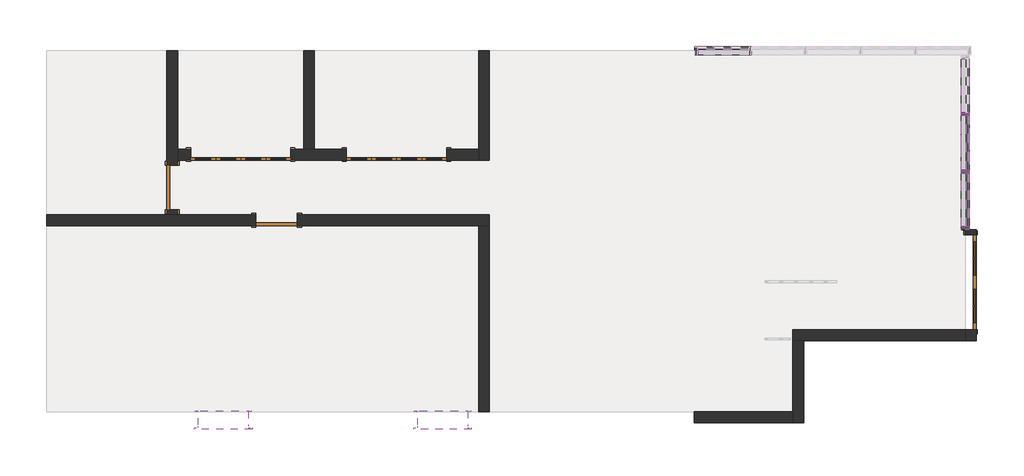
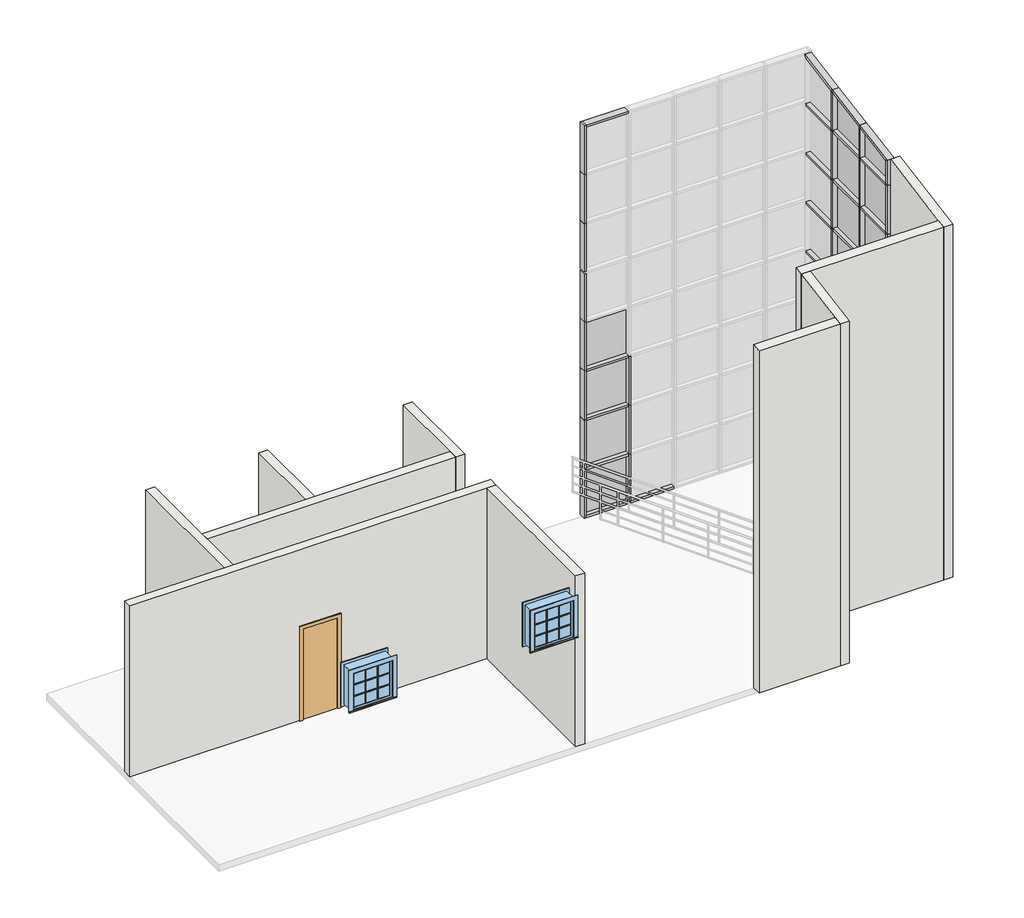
# One storey, part 1 of 2: 67 members, 20 plates, 10 walls, 5 doors, 2 windows.
"""IFC4 building model written with IfcOpenShell, lengths in millimetres."""

from ifc_helpers import new_model, si_unit, frame, origin, place, context, project, spatial, polyline, outline, extrude, faceted_brep, transform, mapped, element, save
from components import door_0762_x_2134mm_85379237, door_0813_x_2134mm_c8a1819b, m_bifold_4_panel_1830_x_2134mm_4b6cec86, m_double_glass_2_1730_x_2134mm_888b7f1c, member_50_x_150mm_83b75eaf, member_50_x_150mm_038a97c0, member_50_x_150mm_99484d71, member_50_x_150mm_4bc6baff, member_50_x_150mm_8b7169f3, member_50_x_150mm_d835aa78, member_50_x_150mm_4919059b, member_50_x_150mm_3cbe9fad, member_50_x_150mm_05ab2822, member_50_x_150mm_df28c177, member_50_x_150mm_b83a1f72, member_50_x_150mm_a69757b9, member_50_x_150mm_bdf0faf1, member_50_x_150mm_050e1f32, member_50_x_150mm_622a95de, member_50_x_150mm_cac3cb24, member_50_x_150mm_aa95aaac, member_50_x_150mm_26602ad8, plate_c1ab5d1c, plate_baaea02c, plate_5f0fc48b, plate_e926f8a0, plate_68810ae1, plate_81e93dbd, plate_49ade304, plate_39faa012, m_casement_3x3_with_trim_0915_x_0915mm_2_71039012

model = new_model("IFC4")

# Units and contexts
model_context = context("Model", 3, world=origin())
ifc_project = project(units=[si_unit("LENGTHUNIT", "METRE", prefix="MILLI")], contexts=[model_context])

# Site, building, storey
site = spatial("IfcSite", under=ifc_project)
building = spatial("IfcBuilding", under=site)
storey = spatial("IfcBuildingStorey", under=building, Name="01 下方樓層", Elevation=-4000.0)

# Doors
placement = place(None, origin())
door_0762_x_2134mm_shape = door_0762_x_2134mm_85379237(model_context)
element("IfcDoor", 1, ObjectType="M_單個嵌平 : 0762 x 2134mm", at=placement, inside=storey, context=model_context, shape_type="MappedRepresentation", body=[
    mapped(door_0762_x_2134mm_shape, transform((-2040.5554883, -2249.1637817, -4000.0), x_axis=(-1.0, 0.0, 0.0), y_axis=(0.0, -1.0, 0.0), z_axis=(0.0, 0.0, 1.0))),
])
door_0813_x_2134mm_shape = door_0813_x_2134mm_c8a1819b(model_context)
element("IfcDoor", 2, ObjectType="M_單個嵌平 : 0813 x 2134mm", at=placement, inside=storey, context=model_context, shape_type="MappedRepresentation", body=[
    mapped(door_0813_x_2134mm_shape, transform((-3947.0554883, -1649.1637817, -4000.0), x_axis=(0.0, -1.0, 0.0), y_axis=(1.0, 0.0, 0.0), z_axis=(0.0, 0.0, 1.0))),
])
m_bifold_4_panel_1830_x_2134mm_shape = m_bifold_4_panel_1830_x_2134mm_4b6cec86(model_context)
element("IfcDoor", 3, ObjectType="M_Bifold-4 Panel : 1830 x 2134mm", at=placement, inside=storey, context=model_context, shape_type="MappedRepresentation", body=[
    mapped(m_bifold_4_panel_1830_x_2134mm_shape, transform((-2697.0554883, -1049.1637817, -4000.0), x_axis=(1.0, 0.0, 0.0), y_axis=(0.0, 1.0, 0.0), z_axis=(0.0, 0.0, 1.0))),
])
element("IfcDoor", 4, ObjectType="M_Bifold-4 Panel : 1830 x 2134mm", at=placement, inside=storey, context=model_context, shape_type="MappedRepresentation", body=[
    mapped(m_bifold_4_panel_1830_x_2134mm_shape, transform((152.9445117, -1049.1637817, -4000.0), x_axis=(1.0, 0.0, 0.0), y_axis=(0.0, 1.0, 0.0), z_axis=(0.0, 0.0, 1.0))),
])
m_double_glass_2_1730_x_2134mm_shape = m_double_glass_2_1730_x_2134mm_888b7f1c(model_context)
element("IfcDoor", 5, ObjectType="M_Double-Glass 2 : 1730 x 2134mm", at=placement, inside=storey, context=model_context, shape_type="MappedRepresentation", body=[
    mapped(m_double_glass_2_1730_x_2134mm_shape, transform((10652.9445117, -3384.1637817, -4000.0), x_axis=(0.0, -1.0, 0.0), y_axis=(1.0, 0.0, 0.0), z_axis=(0.0, 0.0, 1.0))),
])

# Members
member_50_x_150mm_shape = member_50_x_150mm_83b75eaf(model_context)
element("IfcMember", 6, ObjectType="矩形豎框 : 50 x 150mm", at=placement, inside=storey, context=model_context, shape_type="MappedRepresentation", body=[
    mapped(member_50_x_150mm_shape, transform((10552.9445117, -2419.1637817, 4622.4342419), x_axis=(0.0, -0.17364817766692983, 0.9848077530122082), y_axis=(-1.0, 0.0, 0.0), z_axis=(0.0, -0.9848077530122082, -0.17364817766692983))),
])
member_50_x_150mm_2_shape = member_50_x_150mm_038a97c0(model_context)
element("IfcMember", 7, ObjectType="矩形豎框 : 50 x 150mm", at=placement, inside=storey, context=model_context, shape_type="MappedRepresentation", body=[
    mapped(member_50_x_150mm_2_shape, transform((10552.9445117, -1387.4971151, -4000.0), x_axis=(0.0, 0.0, -1.0), y_axis=(-1.0, 0.0, 0.0), z_axis=(0.0, 1.0, 0.0))),
])
member_50_x_150mm_3_shape = member_50_x_150mm_99484d71(model_context)
element("IfcMember", 8, ObjectType="矩形豎框 : 50 x 150mm", at=placement, inside=storey, context=model_context, shape_type="MappedRepresentation", body=[
    mapped(member_50_x_150mm_3_shape, transform((10552.9445117, -305.8304484, 4995.0719278), x_axis=(0.0, -0.17364817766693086, 0.984807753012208), y_axis=(-1.0, 0.0, 0.0), z_axis=(0.0, -0.984807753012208, -0.17364817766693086))),
])
member_50_x_150mm_4_shape = member_50_x_150mm_4bc6baff(model_context)
element("IfcMember", 9, ObjectType="矩形豎框 : 50 x 150mm", at=placement, inside=storey, context=model_context, shape_type="MappedRepresentation", body=[
    mapped(member_50_x_150mm_4_shape, transform((10552.9445117, -1362.4971151, 4808.7530848), x_axis=(0.0, -0.17364817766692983, 0.9848077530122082), y_axis=(-1.0, 0.0, 0.0), z_axis=(0.0, -0.9848077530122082, -0.17364817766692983))),
])
member_50_x_150mm_5_shape = member_50_x_150mm_8b7169f3(model_context)
element("IfcMember", 10, ObjectType="矩形豎框 : 50 x 150mm", at=placement, inside=storey, context=model_context, shape_type="MappedRepresentation", body=[
    mapped(member_50_x_150mm_5_shape, transform((10552.9445117, -330.8304484, -4000.0), x_axis=(0.0, 0.0, -1.0), y_axis=(-1.0, 0.0, 0.0), z_axis=(0.0, 1.0, 0.0))),
])
member_50_x_150mm_6_shape = member_50_x_150mm_d835aa78(model_context)
element("IfcMember", 11, ObjectType="矩形豎框 : 50 x 150mm", at=placement, inside=storey, context=model_context, shape_type="MappedRepresentation", body=[
    mapped(member_50_x_150mm_6_shape, transform((10552.9445117, -280.8304484, -2852.3261537), x_axis=(0.0, 0.0, 1.0), y_axis=(-1.0, 0.0, 0.0), z_axis=(0.0, -1.0, 0.0))),
])
element("IfcMember", 12, ObjectType="矩形豎框 : 50 x 150mm", at=placement, inside=storey, context=model_context, shape_type="MappedRepresentation", body=[
    mapped(member_50_x_150mm_6_shape, transform((10552.9445117, -2369.1637817, -2852.3261537), x_axis=(0.0, 0.0, 1.0), y_axis=(-1.0, 0.0, 0.0), z_axis=(0.0, -1.0, 0.0))),
])
element("IfcMember", 13, ObjectType="矩形豎框 : 50 x 150mm", at=placement, inside=storey, context=model_context, shape_type="MappedRepresentation", body=[
    mapped(member_50_x_150mm_6_shape, transform((10552.9445117, -280.8304484, -1704.6523073), x_axis=(0.0, 0.0, 1.0), y_axis=(-1.0, 0.0, 0.0), z_axis=(0.0, -1.0, 0.0))),
])
element("IfcMember", 14, ObjectType="矩形豎框 : 50 x 150mm", at=placement, inside=storey, context=model_context, shape_type="MappedRepresentation", body=[
    mapped(member_50_x_150mm_6_shape, transform((10552.9445117, -2369.1637817, -1704.6523073), x_axis=(0.0, 0.0, 1.0), y_axis=(-1.0, 0.0, 0.0), z_axis=(0.0, -1.0, 0.0))),
])
element("IfcMember", 15, ObjectType="矩形豎框 : 50 x 150mm", at=placement, inside=storey, context=model_context, shape_type="MappedRepresentation", body=[
    mapped(member_50_x_150mm_6_shape, transform((10552.9445117, -280.8304484, -556.978461), x_axis=(0.0, 0.0, 1.0), y_axis=(-1.0, 0.0, 0.0), z_axis=(0.0, -1.0, 0.0))),
])
element("IfcMember", 16, ObjectType="矩形豎框 : 50 x 150mm", at=placement, inside=storey, context=model_context, shape_type="MappedRepresentation", body=[
    mapped(member_50_x_150mm_6_shape, transform((10552.9445117, -2369.1637817, -556.978461), x_axis=(0.0, 0.0, 1.0), y_axis=(-1.0, 0.0, 0.0), z_axis=(0.0, -1.0, 0.0))),
])
element("IfcMember", 17, ObjectType="矩形豎框 : 50 x 150mm", at=placement, inside=storey, context=model_context, shape_type="MappedRepresentation", body=[
    mapped(member_50_x_150mm_6_shape, transform((10552.9445117, -280.8304484, 590.6953854), x_axis=(0.0, 0.0, 1.0), y_axis=(-1.0, 0.0, 0.0), z_axis=(0.0, -1.0, 0.0))),
])
element("IfcMember", 18, ObjectType="矩形豎框 : 50 x 150mm", at=placement, inside=storey, context=model_context, shape_type="MappedRepresentation", body=[
    mapped(member_50_x_150mm_6_shape, transform((10552.9445117, -2369.1637817, 590.6953854), x_axis=(0.0, 0.0, 1.0), y_axis=(-1.0, 0.0, 0.0), z_axis=(0.0, -1.0, 0.0))),
])
element("IfcMember", 19, ObjectType="矩形豎框 : 50 x 150mm", at=placement, inside=storey, context=model_context, shape_type="MappedRepresentation", body=[
    mapped(member_50_x_150mm_6_shape, transform((10552.9445117, -280.8304484, 1738.3692317), x_axis=(0.0, 0.0, 1.0), y_axis=(-1.0, 0.0, 0.0), z_axis=(0.0, -1.0, 0.0))),
])
element("IfcMember", 20, ObjectType="矩形豎框 : 50 x 150mm", at=placement, inside=storey, context=model_context, shape_type="MappedRepresentation", body=[
    mapped(member_50_x_150mm_6_shape, transform((10552.9445117, -2369.1637817, 1738.3692317), x_axis=(0.0, 0.0, 1.0), y_axis=(-1.0, 0.0, 0.0), z_axis=(0.0, -1.0, 0.0))),
])
element("IfcMember", 21, ObjectType="矩形豎框 : 50 x 150mm", at=placement, inside=storey, context=model_context, shape_type="MappedRepresentation", body=[
    mapped(member_50_x_150mm_6_shape, transform((10552.9445117, -280.8304484, 2886.0430781), x_axis=(0.0, 0.0, 1.0), y_axis=(-1.0, 0.0, 0.0), z_axis=(0.0, -1.0, 0.0))),
])
element("IfcMember", 22, ObjectType="矩形豎框 : 50 x 150mm", at=placement, inside=storey, context=model_context, shape_type="MappedRepresentation", body=[
    mapped(member_50_x_150mm_6_shape, transform((10552.9445117, -2369.1637817, 2886.0430781), x_axis=(0.0, 0.0, 1.0), y_axis=(-1.0, 0.0, 0.0), z_axis=(0.0, -1.0, 0.0))),
])
element("IfcMember", 23, ObjectType="矩形豎框 : 50 x 150mm", at=placement, inside=storey, context=model_context, shape_type="MappedRepresentation", body=[
    mapped(member_50_x_150mm_6_shape, transform((10552.9445117, -280.8304484, 4033.7169244), x_axis=(0.0, 0.0, 1.0), y_axis=(-1.0, 0.0, 0.0), z_axis=(0.0, -1.0, 0.0))),
])
element("IfcMember", 24, ObjectType="矩形豎框 : 50 x 150mm", at=placement, inside=storey, context=model_context, shape_type="MappedRepresentation", body=[
    mapped(member_50_x_150mm_6_shape, transform((10552.9445117, -2369.1637817, 4033.7169244), x_axis=(0.0, 0.0, 1.0), y_axis=(-1.0, 0.0, 0.0), z_axis=(0.0, -1.0, 0.0))),
])
member_50_x_150mm_7_shape = member_50_x_150mm_4919059b(model_context)
element("IfcMember", 25, ObjectType="矩形豎框 : 50 x 150mm", at=placement, inside=storey, context=model_context, shape_type="MappedRepresentation", body=[
    mapped(member_50_x_150mm_7_shape, transform((10552.9445117, -1337.4971151, -2852.3261537), x_axis=(0.0, 0.0, 1.0), y_axis=(-1.0, 0.0, 0.0), z_axis=(0.0, -1.0, 0.0))),
])
element("IfcMember", 26, ObjectType="矩形豎框 : 50 x 150mm", at=placement, inside=storey, context=model_context, shape_type="MappedRepresentation", body=[
    mapped(member_50_x_150mm_7_shape, transform((10552.9445117, -1337.4971151, -1704.6523073), x_axis=(0.0, 0.0, 1.0), y_axis=(-1.0, 0.0, 0.0), z_axis=(0.0, -1.0, 0.0))),
])
element("IfcMember", 27, ObjectType="矩形豎框 : 50 x 150mm", at=placement, inside=storey, context=model_context, shape_type="MappedRepresentation", body=[
    mapped(member_50_x_150mm_7_shape, transform((10552.9445117, -1337.4971151, -556.978461), x_axis=(0.0, 0.0, 1.0), y_axis=(-1.0, 0.0, 0.0), z_axis=(0.0, -1.0, 0.0))),
])
element("IfcMember", 28, ObjectType="矩形豎框 : 50 x 150mm", at=placement, inside=storey, context=model_context, shape_type="MappedRepresentation", body=[
    mapped(member_50_x_150mm_7_shape, transform((10552.9445117, -1337.4971151, 590.6953854), x_axis=(0.0, 0.0, 1.0), y_axis=(-1.0, 0.0, 0.0), z_axis=(0.0, -1.0, 0.0))),
])
element("IfcMember", 29, ObjectType="矩形豎框 : 50 x 150mm", at=placement, inside=storey, context=model_context, shape_type="MappedRepresentation", body=[
    mapped(member_50_x_150mm_7_shape, transform((10552.9445117, -1337.4971151, 1738.3692317), x_axis=(0.0, 0.0, 1.0), y_axis=(-1.0, 0.0, 0.0), z_axis=(0.0, -1.0, 0.0))),
])
element("IfcMember", 30, ObjectType="矩形豎框 : 50 x 150mm", at=placement, inside=storey, context=model_context, shape_type="MappedRepresentation", body=[
    mapped(member_50_x_150mm_7_shape, transform((10552.9445117, -1337.4971151, 2886.0430781), x_axis=(0.0, 0.0, 1.0), y_axis=(-1.0, 0.0, 0.0), z_axis=(0.0, -1.0, 0.0))),
])
element("IfcMember", 31, ObjectType="矩形豎框 : 50 x 150mm", at=placement, inside=storey, context=model_context, shape_type="MappedRepresentation", body=[
    mapped(member_50_x_150mm_7_shape, transform((10552.9445117, -1337.4971151, 4033.7169244), x_axis=(0.0, 0.0, 1.0), y_axis=(-1.0, 0.0, 0.0), z_axis=(0.0, -1.0, 0.0))),
])
member_50_x_150mm_8_shape = member_50_x_150mm_3cbe9fad(model_context)
element("IfcMember", 32, ObjectType="矩形豎框 : 50 x 150mm", at=placement, inside=storey, context=model_context, shape_type="MappedRepresentation", body=[
    mapped(member_50_x_150mm_8_shape, transform((10552.9445117, -305.8304484, -4000.0), x_axis=(0.0, -1.0, 0.0), y_axis=(-1.0, 0.0, 0.0), z_axis=(0.0, 0.0, -1.0))),
])
element("IfcMember", 33, ObjectType="矩形豎框 : 50 x 150mm", at=placement, inside=storey, context=model_context, shape_type="MappedRepresentation", body=[
    mapped(member_50_x_150mm_8_shape, transform((10552.9445117, -1362.4971151, -4000.0), x_axis=(0.0, -1.0, 0.0), y_axis=(-1.0, 0.0, 0.0), z_axis=(0.0, 0.0, -1.0))),
])
element("IfcMember", 34, ObjectType="矩形豎框 : 50 x 150mm", at=placement, inside=storey, context=model_context, shape_type="MappedRepresentation", body=[
    mapped(member_50_x_150mm_8_shape, transform((10552.9445117, -305.8304484, -2852.3261537), x_axis=(0.0, -1.0, 0.0), y_axis=(-1.0, 0.0, 0.0), z_axis=(0.0, 0.0, -1.0))),
])
element("IfcMember", 35, ObjectType="矩形豎框 : 50 x 150mm", at=placement, inside=storey, context=model_context, shape_type="MappedRepresentation", body=[
    mapped(member_50_x_150mm_8_shape, transform((10552.9445117, -1362.4971151, -2852.3261537), x_axis=(0.0, -1.0, 0.0), y_axis=(-1.0, 0.0, 0.0), z_axis=(0.0, 0.0, -1.0))),
])
element("IfcMember", 36, ObjectType="矩形豎框 : 50 x 150mm", at=placement, inside=storey, context=model_context, shape_type="MappedRepresentation", body=[
    mapped(member_50_x_150mm_8_shape, transform((10552.9445117, -305.8304484, -1704.6523073), x_axis=(0.0, -1.0, 0.0), y_axis=(-1.0, 0.0, 0.0), z_axis=(0.0, 0.0, -1.0))),
])
element("IfcMember", 37, ObjectType="矩形豎框 : 50 x 150mm", at=placement, inside=storey, context=model_context, shape_type="MappedRepresentation", body=[
    mapped(member_50_x_150mm_8_shape, transform((10552.9445117, -1362.4971151, -1704.6523073), x_axis=(0.0, -1.0, 0.0), y_axis=(-1.0, 0.0, 0.0), z_axis=(0.0, 0.0, -1.0))),
])
element("IfcMember", 38, ObjectType="矩形豎框 : 50 x 150mm", at=placement, inside=storey, context=model_context, shape_type="MappedRepresentation", body=[
    mapped(member_50_x_150mm_8_shape, transform((10552.9445117, -305.8304484, -556.978461), x_axis=(0.0, -1.0, 0.0), y_axis=(-1.0, 0.0, 0.0), z_axis=(0.0, 0.0, -1.0))),
])
element("IfcMember", 39, ObjectType="矩形豎框 : 50 x 150mm", at=placement, inside=storey, context=model_context, shape_type="MappedRepresentation", body=[
    mapped(member_50_x_150mm_8_shape, transform((10552.9445117, -1362.4971151, -556.978461), x_axis=(0.0, -1.0, 0.0), y_axis=(-1.0, 0.0, 0.0), z_axis=(0.0, 0.0, -1.0))),
])
element("IfcMember", 40, ObjectType="矩形豎框 : 50 x 150mm", at=placement, inside=storey, context=model_context, shape_type="MappedRepresentation", body=[
    mapped(member_50_x_150mm_8_shape, transform((10552.9445117, -305.8304484, 590.6953854), x_axis=(0.0, -1.0, 0.0), y_axis=(-1.0, 0.0, 0.0), z_axis=(0.0, 0.0, -1.0))),
])
element("IfcMember", 41, ObjectType="矩形豎框 : 50 x 150mm", at=placement, inside=storey, context=model_context, shape_type="MappedRepresentation", body=[
    mapped(member_50_x_150mm_8_shape, transform((10552.9445117, -305.8304484, 1738.3692317), x_axis=(0.0, -1.0, 0.0), y_axis=(-1.0, 0.0, 0.0), z_axis=(0.0, 0.0, -1.0))),
])
element("IfcMember", 42, ObjectType="矩形豎框 : 50 x 150mm", at=placement, inside=storey, context=model_context, shape_type="MappedRepresentation", body=[
    mapped(member_50_x_150mm_8_shape, transform((10552.9445117, -305.8304484, 2886.0430781), x_axis=(0.0, -1.0, 0.0), y_axis=(-1.0, 0.0, 0.0), z_axis=(0.0, 0.0, -1.0))),
])
element("IfcMember", 43, ObjectType="矩形豎框 : 50 x 150mm", at=placement, inside=storey, context=model_context, shape_type="MappedRepresentation", body=[
    mapped(member_50_x_150mm_8_shape, transform((10552.9445117, -1362.4971151, 590.6953854), x_axis=(0.0, -1.0, 0.0), y_axis=(-1.0, 0.0, 0.0), z_axis=(0.0, 0.0, -1.0))),
])
element("IfcMember", 44, ObjectType="矩形豎框 : 50 x 150mm", at=placement, inside=storey, context=model_context, shape_type="MappedRepresentation", body=[
    mapped(member_50_x_150mm_8_shape, transform((10552.9445117, -1362.4971151, 1738.3692317), x_axis=(0.0, -1.0, 0.0), y_axis=(-1.0, 0.0, 0.0), z_axis=(0.0, 0.0, -1.0))),
])
element("IfcMember", 45, ObjectType="矩形豎框 : 50 x 150mm", at=placement, inside=storey, context=model_context, shape_type="MappedRepresentation", body=[
    mapped(member_50_x_150mm_8_shape, transform((10552.9445117, -1362.4971151, 2886.0430781), x_axis=(0.0, -1.0, 0.0), y_axis=(-1.0, 0.0, 0.0), z_axis=(0.0, 0.0, -1.0))),
])
member_50_x_150mm_9_shape = member_50_x_150mm_05ab2822(model_context)
element("IfcMember", 46, ObjectType="矩形豎框 : 50 x 150mm", at=placement, inside=storey, context=model_context, shape_type="MappedRepresentation", body=[
    mapped(member_50_x_150mm_9_shape, transform((10552.9445117, -305.8304484, 4033.7169244), x_axis=(0.0, -1.0, 0.0), y_axis=(-1.0, 0.0, 0.0), z_axis=(0.0, 0.0, -1.0))),
])
member_50_x_150mm_10_shape = member_50_x_150mm_df28c177(model_context)
element("IfcMember", 47, ObjectType="矩形豎框 : 50 x 150mm", at=placement, inside=storey, context=model_context, shape_type="MappedRepresentation", body=[
    mapped(member_50_x_150mm_10_shape, transform((10552.9445117, -1362.4971151, 4033.7169244), x_axis=(0.0, -1.0, 0.0), y_axis=(-1.0, 0.0, 0.0), z_axis=(0.0, 0.0, -1.0))),
])
member_50_x_150mm_11_shape = member_50_x_150mm_b83a1f72(model_context)
element("IfcMember", 48, ObjectType="矩形豎框 : 50 x 150mm", at=placement, inside=storey, context=model_context, shape_type="MappedRepresentation", body=[
    mapped(member_50_x_150mm_11_shape, transform((10552.9445117, -2419.1637817, -4000.0), x_axis=(0.0, -1.0, 0.0), y_axis=(-1.0, 0.0, 0.0), z_axis=(0.0, 0.0, -1.0))),
])
element("IfcMember", 49, ObjectType="矩形豎框 : 50 x 150mm", at=placement, inside=storey, context=model_context, shape_type="MappedRepresentation", body=[
    mapped(member_50_x_150mm_11_shape, transform((10552.9445117, -2419.1637817, -2852.3261537), x_axis=(0.0, -1.0, 0.0), y_axis=(-1.0, 0.0, 0.0), z_axis=(0.0, 0.0, -1.0))),
])
element("IfcMember", 50, ObjectType="矩形豎框 : 50 x 150mm", at=placement, inside=storey, context=model_context, shape_type="MappedRepresentation", body=[
    mapped(member_50_x_150mm_11_shape, transform((10552.9445117, -2419.1637817, -1704.6523073), x_axis=(0.0, -1.0, 0.0), y_axis=(-1.0, 0.0, 0.0), z_axis=(0.0, 0.0, -1.0))),
])
element("IfcMember", 51, ObjectType="矩形豎框 : 50 x 150mm", at=placement, inside=storey, context=model_context, shape_type="MappedRepresentation", body=[
    mapped(member_50_x_150mm_11_shape, transform((10552.9445117, -2419.1637817, -556.978461), x_axis=(0.0, -1.0, 0.0), y_axis=(-1.0, 0.0, 0.0), z_axis=(0.0, 0.0, -1.0))),
])
element("IfcMember", 52, ObjectType="矩形豎框 : 50 x 150mm", at=placement, inside=storey, context=model_context, shape_type="MappedRepresentation", body=[
    mapped(member_50_x_150mm_11_shape, transform((10552.9445117, -2419.1637817, 590.6953854), x_axis=(0.0, -1.0, 0.0), y_axis=(-1.0, 0.0, 0.0), z_axis=(0.0, 0.0, -1.0))),
])
element("IfcMember", 53, ObjectType="矩形豎框 : 50 x 150mm", at=placement, inside=storey, context=model_context, shape_type="MappedRepresentation", body=[
    mapped(member_50_x_150mm_11_shape, transform((10552.9445117, -2419.1637817, 1738.3692317), x_axis=(0.0, -1.0, 0.0), y_axis=(-1.0, 0.0, 0.0), z_axis=(0.0, 0.0, -1.0))),
])
element("IfcMember", 54, ObjectType="矩形豎框 : 50 x 150mm", at=placement, inside=storey, context=model_context, shape_type="MappedRepresentation", body=[
    mapped(member_50_x_150mm_11_shape, transform((10552.9445117, -2419.1637817, 2886.0430781), x_axis=(0.0, -1.0, 0.0), y_axis=(-1.0, 0.0, 0.0), z_axis=(0.0, 0.0, -1.0))),
])
member_50_x_150mm_12_shape = member_50_x_150mm_a69757b9(model_context)
element("IfcMember", 55, ObjectType="矩形豎框 : 50 x 150mm", at=placement, inside=storey, context=model_context, shape_type="MappedRepresentation", body=[
    mapped(member_50_x_150mm_12_shape, transform((10552.9445117, -2419.1637817, 4033.7169244), x_axis=(0.0, -1.0, 0.0), y_axis=(-1.0, 0.0, 0.0), z_axis=(0.0, 0.0, -1.0))),
])
member_50_x_150mm_13_shape = member_50_x_150mm_bdf0faf1(model_context)
element("IfcMember", 56, ObjectType="矩形豎框 : 50 x 150mm", at=placement, inside=storey, context=model_context, shape_type="MappedRepresentation", body=[
    mapped(member_50_x_150mm_13_shape, transform((6595.3061331, 850.8362183, 5199.0234688), x_axis=(0.0, 0.0, 1.0), y_axis=(0.0, -1.0, 0.0), z_axis=(1.0, 0.0, 0.0))),
])
element("IfcMember", 57, ObjectType="矩形豎框 : 50 x 150mm", at=placement, inside=storey, context=model_context, shape_type="MappedRepresentation", body=[
    mapped(member_50_x_150mm_13_shape, transform((5662.1465384, 850.8362183, -4000.0), x_axis=(0.0, 0.0, -1.0), y_axis=(0.0, -1.0, 0.0), z_axis=(-1.0, 0.0, 0.0))),
])
member_50_x_150mm_14_shape = member_50_x_150mm_050e1f32(model_context)
element("IfcMember", 58, ObjectType="矩形豎框 : 50 x 150mm", at=placement, inside=storey, context=model_context, shape_type="MappedRepresentation", body=[
    mapped(member_50_x_150mm_14_shape, transform((5612.1465384, 850.8362183, 5199.0234688), x_axis=(-1.0, 0.0, 0.0), y_axis=(0.0, -1.0, 0.0), z_axis=(0.0, 0.0, 1.0))),
])
member_50_x_150mm_15_shape = member_50_x_150mm_622a95de(model_context)
element("IfcMember", 59, ObjectType="矩形豎框 : 50 x 150mm", at=placement, inside=storey, context=model_context, shape_type="MappedRepresentation", body=[
    mapped(member_50_x_150mm_15_shape, transform((6645.3061331, 850.8362183, -4000.0), x_axis=(0.0, 0.0, -1.0), y_axis=(0.0, -1.0, 0.0), z_axis=(-1.0, 0.0, 0.0))),
])
element("IfcMember", 60, ObjectType="矩形豎框 : 50 x 150mm", at=placement, inside=storey, context=model_context, shape_type="MappedRepresentation", body=[
    mapped(member_50_x_150mm_14_shape, transform((5612.1465384, 850.8362183, -2850.1220664), x_axis=(-1.0, 0.0, 0.0), y_axis=(0.0, -1.0, 0.0), z_axis=(0.0, 0.0, 1.0))),
])
element("IfcMember", 61, ObjectType="矩形豎框 : 50 x 150mm", at=placement, inside=storey, context=model_context, shape_type="MappedRepresentation", body=[
    mapped(member_50_x_150mm_14_shape, transform((5612.1465384, 850.8362183, -1700.2441328), x_axis=(-1.0, 0.0, 0.0), y_axis=(0.0, -1.0, 0.0), z_axis=(0.0, 0.0, 1.0))),
])
element("IfcMember", 62, ObjectType="矩形豎框 : 50 x 150mm", at=placement, inside=storey, context=model_context, shape_type="MappedRepresentation", body=[
    mapped(member_50_x_150mm_14_shape, transform((5612.1465384, 850.8362183, -550.3661992), x_axis=(-1.0, 0.0, 0.0), y_axis=(0.0, -1.0, 0.0), z_axis=(0.0, 0.0, 1.0))),
])
element("IfcMember", 63, ObjectType="矩形豎框 : 50 x 150mm", at=placement, inside=storey, context=model_context, shape_type="MappedRepresentation", body=[
    mapped(member_50_x_150mm_14_shape, transform((5612.1465384, 850.8362183, 599.5117344), x_axis=(-1.0, 0.0, 0.0), y_axis=(0.0, -1.0, 0.0), z_axis=(0.0, 0.0, 1.0))),
])
element("IfcMember", 64, ObjectType="矩形豎框 : 50 x 150mm", at=placement, inside=storey, context=model_context, shape_type="MappedRepresentation", body=[
    mapped(member_50_x_150mm_14_shape, transform((5612.1465384, 850.8362183, 4049.1455352), x_axis=(-1.0, 0.0, 0.0), y_axis=(0.0, -1.0, 0.0), z_axis=(0.0, 0.0, 1.0))),
])
member_50_x_150mm_16_shape = member_50_x_150mm_cac3cb24(model_context)
element("IfcMember", 65, ObjectType="矩形豎框 : 50 x 150mm", at=placement, inside=storey, context=model_context, shape_type="MappedRepresentation", body=[
    mapped(member_50_x_150mm_16_shape, transform((6595.3061331, 850.8362183, -2850.1220664), x_axis=(0.0, 0.0, 1.0), y_axis=(0.0, -1.0, 0.0), z_axis=(1.0, 0.0, 0.0))),
])
element("IfcMember", 66, ObjectType="矩形豎框 : 50 x 150mm", at=placement, inside=storey, context=model_context, shape_type="MappedRepresentation", body=[
    mapped(member_50_x_150mm_16_shape, transform((6595.3061331, 850.8362183, -1700.2441328), x_axis=(0.0, 0.0, 1.0), y_axis=(0.0, -1.0, 0.0), z_axis=(1.0, 0.0, 0.0))),
])
element("IfcMember", 67, ObjectType="矩形豎框 : 50 x 150mm", at=placement, inside=storey, context=model_context, shape_type="MappedRepresentation", body=[
    mapped(member_50_x_150mm_16_shape, transform((6595.3061331, 850.8362183, -550.3661992), x_axis=(0.0, 0.0, 1.0), y_axis=(0.0, -1.0, 0.0), z_axis=(1.0, 0.0, 0.0))),
])
member_50_x_150mm_17_shape = member_50_x_150mm_aa95aaac(model_context)
element("IfcMember", 68, ObjectType="矩形豎框 : 50 x 150mm", at=placement, inside=storey, context=model_context, shape_type="MappedRepresentation", body=[
    mapped(member_50_x_150mm_17_shape, transform((6620.3061331, 850.8362183, -4000.0), x_axis=(1.0, 0.0, 0.0), y_axis=(0.0, -1.0, 0.0), z_axis=(0.0, 0.0, -1.0))),
])
element("IfcMember", 69, ObjectType="矩形豎框 : 50 x 150mm", at=placement, inside=storey, context=model_context, shape_type="MappedRepresentation", body=[
    mapped(member_50_x_150mm_17_shape, transform((6620.3061331, 850.8362183, -2850.1220664), x_axis=(1.0, 0.0, 0.0), y_axis=(0.0, -1.0, 0.0), z_axis=(0.0, 0.0, -1.0))),
])
element("IfcMember", 70, ObjectType="矩形豎框 : 50 x 150mm", at=placement, inside=storey, context=model_context, shape_type="MappedRepresentation", body=[
    mapped(member_50_x_150mm_17_shape, transform((6620.3061331, 850.8362183, -1700.2441328), x_axis=(1.0, 0.0, 0.0), y_axis=(0.0, -1.0, 0.0), z_axis=(0.0, 0.0, -1.0))),
])
member_50_x_150mm_18_shape = member_50_x_150mm_26602ad8(model_context)
element("IfcMember", 71, ObjectType="矩形豎框 : 50 x 150mm", at=placement, inside=storey, context=model_context, shape_type="MappedRepresentation", body=[
    mapped(member_50_x_150mm_18_shape, transform((5612.1465384, 850.8362183, 1724.389668), x_axis=(-1.0, 0.0, 0.0), y_axis=(0.0, -1.0, 0.0), z_axis=(0.0, 0.0, 1.0))),
])
element("IfcMember", 72, ObjectType="矩形豎框 : 50 x 150mm", at=placement, inside=storey, context=model_context, shape_type="MappedRepresentation", body=[
    mapped(member_50_x_150mm_18_shape, transform((5612.1465384, 850.8362183, 2899.2676016), x_axis=(-1.0, 0.0, 0.0), y_axis=(0.0, -1.0, 0.0), z_axis=(0.0, 0.0, 1.0))),
])

# Plates
plate_shape = plate_c1ab5d1c(model_context)
element("IfcPlate", 73, ObjectType="系統嵌板 : 有玻璃的", at=placement, inside=storey, context=model_context, shape_type="MappedRepresentation", body=[
    mapped(plate_shape, transform((10552.9445117, -1878.3304484, -3950.0), x_axis=(0.0, -1.0, 0.0), y_axis=(1.0, 0.0, 0.0), z_axis=(0.0, 0.0, 1.0))),
])
plate_2_shape = plate_baaea02c(model_context)
element("IfcPlate", 74, ObjectType="系統嵌板 : 有玻璃的", at=placement, inside=storey, context=model_context, shape_type="MappedRepresentation", body=[
    mapped(plate_2_shape, transform((10552.9445117, -834.1637817, -3950.0), x_axis=(0.0, -1.0, 0.0), y_axis=(1.0, 0.0, 0.0), z_axis=(0.0, 0.0, 1.0))),
])
plate_3_shape = plate_5f0fc48b(model_context)
element("IfcPlate", 75, ObjectType="系統嵌板 : 有玻璃的", at=placement, inside=storey, context=model_context, shape_type="MappedRepresentation", body=[
    mapped(plate_3_shape, transform((10552.9445117, -1878.3304484, -2827.3261537), x_axis=(0.0, -1.0, 0.0), y_axis=(1.0, 0.0, 0.0), z_axis=(0.0, 0.0, 1.0))),
])
element("IfcPlate", 76, ObjectType="系統嵌板 : 有玻璃的", at=placement, inside=storey, context=model_context, shape_type="MappedRepresentation", body=[
    mapped(plate_3_shape, transform((10552.9445117, -1878.3304484, -1679.6523073), x_axis=(0.0, -1.0, 0.0), y_axis=(1.0, 0.0, 0.0), z_axis=(0.0, 0.0, 1.0))),
])
element("IfcPlate", 77, ObjectType="系統嵌板 : 有玻璃的", at=placement, inside=storey, context=model_context, shape_type="MappedRepresentation", body=[
    mapped(plate_3_shape, transform((10552.9445117, -1878.3304484, -531.978461), x_axis=(0.0, -1.0, 0.0), y_axis=(1.0, 0.0, 0.0), z_axis=(0.0, 0.0, 1.0))),
])
element("IfcPlate", 78, ObjectType="系統嵌板 : 有玻璃的", at=placement, inside=storey, context=model_context, shape_type="MappedRepresentation", body=[
    mapped(plate_3_shape, transform((10552.9445117, -1878.3304484, 615.6953854), x_axis=(0.0, -1.0, 0.0), y_axis=(1.0, 0.0, 0.0), z_axis=(0.0, 0.0, 1.0))),
])
element("IfcPlate", 79, ObjectType="系統嵌板 : 有玻璃的", at=placement, inside=storey, context=model_context, shape_type="MappedRepresentation", body=[
    mapped(plate_3_shape, transform((10552.9445117, -1878.3304484, 1763.3692317), x_axis=(0.0, -1.0, 0.0), y_axis=(1.0, 0.0, 0.0), z_axis=(0.0, 0.0, 1.0))),
])
element("IfcPlate", 80, ObjectType="系統嵌板 : 有玻璃的", at=placement, inside=storey, context=model_context, shape_type="MappedRepresentation", body=[
    mapped(plate_3_shape, transform((10552.9445117, -1878.3304484, 2911.0430781), x_axis=(0.0, -1.0, 0.0), y_axis=(1.0, 0.0, 0.0), z_axis=(0.0, 0.0, 1.0))),
])
plate_4_shape = plate_e926f8a0(model_context)
element("IfcPlate", 81, ObjectType="系統嵌板 : 有玻璃的", at=placement, inside=storey, context=model_context, shape_type="MappedRepresentation", body=[
    mapped(plate_4_shape, transform((10552.9445117, -834.1637817, -2827.3261537), x_axis=(0.0, -1.0, 0.0), y_axis=(1.0, 0.0, 0.0), z_axis=(0.0, 0.0, 1.0))),
])
element("IfcPlate", 82, ObjectType="系統嵌板 : 有玻璃的", at=placement, inside=storey, context=model_context, shape_type="MappedRepresentation", body=[
    mapped(plate_4_shape, transform((10552.9445117, -834.1637817, -1679.6523073), x_axis=(0.0, -1.0, 0.0), y_axis=(1.0, 0.0, 0.0), z_axis=(0.0, 0.0, 1.0))),
])
element("IfcPlate", 83, ObjectType="系統嵌板 : 有玻璃的", at=placement, inside=storey, context=model_context, shape_type="MappedRepresentation", body=[
    mapped(plate_4_shape, transform((10552.9445117, -834.1637817, -531.978461), x_axis=(0.0, -1.0, 0.0), y_axis=(1.0, 0.0, 0.0), z_axis=(0.0, 0.0, 1.0))),
])
element("IfcPlate", 84, ObjectType="系統嵌板 : 有玻璃的", at=placement, inside=storey, context=model_context, shape_type="MappedRepresentation", body=[
    mapped(plate_4_shape, transform((10552.9445117, -834.1637817, 615.6953854), x_axis=(0.0, -1.0, 0.0), y_axis=(1.0, 0.0, 0.0), z_axis=(0.0, 0.0, 1.0))),
])
element("IfcPlate", 85, ObjectType="系統嵌板 : 有玻璃的", at=placement, inside=storey, context=model_context, shape_type="MappedRepresentation", body=[
    mapped(plate_4_shape, transform((10552.9445117, -834.1637817, 1763.3692317), x_axis=(0.0, -1.0, 0.0), y_axis=(1.0, 0.0, 0.0), z_axis=(0.0, 0.0, 1.0))),
])
element("IfcPlate", 86, ObjectType="系統嵌板 : 有玻璃的", at=placement, inside=storey, context=model_context, shape_type="MappedRepresentation", body=[
    mapped(plate_4_shape, transform((10552.9445117, -834.1637817, 2911.0430781), x_axis=(0.0, -1.0, 0.0), y_axis=(1.0, 0.0, 0.0), z_axis=(0.0, 0.0, 1.0))),
])
plate_5_shape = plate_68810ae1(model_context)
element("IfcPlate", 87, ObjectType="系統嵌板 : 有玻璃的", at=placement, inside=storey, context=model_context, shape_type="MappedRepresentation", body=[
    mapped(plate_5_shape, transform((10552.9445117, -834.1637817, 4058.7169244), x_axis=(0.0, -1.0, 0.0), y_axis=(1.0, 0.0, 0.0), z_axis=(0.0, 0.0, 1.0))),
])
plate_6_shape = plate_81e93dbd(model_context)
element("IfcPlate", 88, ObjectType="系統嵌板 : 有玻璃的", at=placement, inside=storey, context=model_context, shape_type="MappedRepresentation", body=[
    mapped(plate_6_shape, transform((10552.9445117, -1878.3304484, 4058.7169244), x_axis=(0.0, -1.0, 0.0), y_axis=(1.0, 0.0, 0.0), z_axis=(0.0, 0.0, 1.0))),
])
plate_7_shape = plate_49ade304(model_context)
element("IfcPlate", 89, ObjectType="系統嵌板 : 有玻璃的", at=placement, inside=storey, context=model_context, shape_type="MappedRepresentation", body=[
    mapped(plate_7_shape, transform((6128.7263358, 850.8362183, -3950.0), x_axis=(1.0, 0.0, 0.0), y_axis=(0.0, 1.0, 0.0), z_axis=(0.0, 0.0, 1.0))),
])
plate_8_shape = plate_39faa012(model_context)
element("IfcPlate", 90, ObjectType="系統嵌板 : 有玻璃的", at=placement, inside=storey, context=model_context, shape_type="MappedRepresentation", body=[
    mapped(plate_8_shape, transform((6128.7263358, 850.8362183, -2825.1220664), x_axis=(1.0, 0.0, 0.0), y_axis=(0.0, 1.0, 0.0), z_axis=(0.0, 0.0, 1.0))),
])
element("IfcPlate", 91, ObjectType="系統嵌板 : 有玻璃的", at=placement, inside=storey, context=model_context, shape_type="MappedRepresentation", body=[
    mapped(plate_8_shape, transform((6128.7263358, 850.8362183, -1675.2441328), x_axis=(1.0, 0.0, 0.0), y_axis=(0.0, 1.0, 0.0), z_axis=(0.0, 0.0, 1.0))),
])
element("IfcPlate", 92, ObjectType="系統嵌板 : 有玻璃的", at=placement, inside=storey, context=model_context, shape_type="MappedRepresentation", body=[
    mapped(plate_8_shape, transform((6128.7263358, 850.8362183, -525.3661992), x_axis=(1.0, 0.0, 0.0), y_axis=(0.0, 1.0, 0.0), z_axis=(0.0, 0.0, 1.0))),
])

# Walls
element("IfcWall", 93, ObjectType="牆 200mm", at=placement, inside=storey, context=model_context, shape_type="Brep", body=[
    faceted_brep([(10552.9445117, -4249.1637817, -4000.0), (7402.9445117, -4249.1637817, -4000.0), (7402.9445117, -4249.1637817, 4299.7558672), (10552.9445117, -4249.1637817, 4299.7558672), (10552.9445117, -4449.1637817, -4000.0), (10552.9445117, -4449.1637817, 4264.4904711), (7602.9445117, -4449.1637817, 4264.4904711), (7402.9445117, -4449.1637817, 4264.4904711), (7402.9445117, -4449.1637817, -4000.0), (7602.9445117, -4449.1637817, -4000.0)], [[[0, 1, 2, 3]], [[4, 5, 6, 7, 8, 9]], [[1, 0, 4, 9, 8]], [[2, 1, 8, 7]], [[0, 3, 5, 4]], [[3, 2, 7, 6, 5]]]),
])
element("IfcWall", 94, ObjectType="牆 200mm", at=placement, inside=storey, context=model_context, shape_type="Brep", body=[
    faceted_brep([(7402.9445117, -4449.1637817, -4000.0), (7402.9445117, -5749.1637817, -4000.0), (7402.9445117, -5949.1637817, -4000.0), (7402.9445117, -5949.1637817, 4000.0), (7402.9445117, -5749.1637817, 4035.2653961), (7402.9445117, -4449.1637817, 4264.4904711), (7402.9445117, -4641.6637817, 0.0), (7402.9445117, -4641.6637817, 2134.0), (7402.9445117, -5556.6637817, 2134.0), (7402.9445117, -5556.6637817, 0.0), (7602.9445117, -4449.1637817, -4000.0), (7602.9445117, -4449.1637817, 4264.4904711), (7602.9445117, -5949.1637817, 4000.0), (7602.9445117, -5949.1637817, -4000.0), (7602.9445117, -4641.6637817, 0.0), (7602.9445117, -5556.6637817, 0.0), (7602.9445117, -5556.6637817, 2134.0), (7602.9445117, -4641.6637817, 2134.0)], [[[0, 1, 2, 3, 4, 5], [6, 7, 8, 9]], [[10, 11, 12, 13], [14, 15, 16, 17]], [[2, 1, 0, 10, 13]], [[3, 2, 13, 12]], [[0, 5, 11, 10]], [[5, 4, 3, 12, 11]], [[15, 14, 6, 9]], [[16, 15, 9, 8]], [[17, 16, 8, 7]], [[14, 17, 7, 6]]]),
])
element("IfcWall", 95, ObjectType="牆 200mm", at=placement, inside=storey, context=model_context, shape_type="Brep", body=[
    faceted_brep([(7402.9445117, -5749.1637817, -4000.0), (5602.9445117, -5749.1637817, -4000.0), (5602.9445117, -5749.1637817, 0.0), (5602.9445117, -5749.1637817, 4035.2653961), (7402.9445117, -5749.1637817, 4035.2653961), (7402.9445117, -5949.1637817, -4000.0), (7402.9445117, -5949.1637817, 4000.0), (5602.9445117, -5949.1637817, 4000.0), (5602.9445117, -5949.1637817, 0.0), (5602.9445117, -5949.1637817, -4000.0)], [[[0, 1, 2, 3, 4]], [[5, 6, 7, 8, 9]], [[1, 0, 5, 9]], [[0, 4, 6, 5]], [[1, 9, 8, 7, 3, 2]], [[4, 3, 7, 6]]]),
])
element("IfcWall", 96, ObjectType="牆 200mm", at=placement, inside=storey, context=model_context, shape_type="Brep", body=[
    faceted_brep([(1652.9445117, 850.8362183, -4000.0), (1652.9445117, -949.1637817, -4000.0), (1652.9445117, -1149.1637817, -4000.0), (1652.9445117, -1149.1637817, 0.0), (1652.9445117, -949.1637817, 0.0), (1652.9445117, 850.8362183, 0.0), (1852.9445117, 850.8362183, -4000.0), (1852.9445117, 850.8362183, 0.0), (1852.9445117, -1149.1637817, 0.0), (1852.9445117, -1149.1637817, -4000.0)], [[[0, 1, 2, 3, 4, 5]], [[6, 7, 8, 9]], [[2, 1, 0, 6, 9]], [[5, 4, 3, 8, 7]], [[3, 2, 9, 8]], [[0, 5, 7, 6]]]),
])
element("IfcWall", 97, ObjectType="牆 200mm", at=placement, inside=storey, context=model_context, shape_type="Brep", body=[
    faceted_brep([(-6247.0554883, -2349.1637817, -4000.0), (-2421.5554883, -2349.1637817, -4000.0), (-2421.5554883, -2349.1637817, -1866.0), (-1659.5554883, -2349.1637817, -1866.0), (-1659.5554883, -2349.1637817, -4000.0), (1652.9445117, -2349.1637817, -4000.0), (1852.9445117, -2349.1637817, -4000.0), (1852.9445117, -2349.1637817, 0.0), (1652.9445117, -2349.1637817, 0.0), (-6247.0554883, -2349.1637817, 0.0), (-2421.5554883, -2149.1637817, -1866.0), (-2421.5554883, -2149.1637817, -4000.0), (-3847.0554883, -2149.1637817, -4000.0), (-4047.0554883, -2149.1637817, -4000.0), (-6247.0554883, -2149.1637817, -4000.0), (-6247.0554883, -2149.1637817, 0.0), (-4047.0554883, -2149.1637817, 0.0), (-3847.0554883, -2149.1637817, 0.0), (1852.9445117, -2149.1637817, 0.0), (1852.9445117, -2149.1637817, -4000.0), (-1659.5554883, -2149.1637817, -4000.0), (-1659.5554883, -2149.1637817, -1866.0)], [[[0, 1, 2, 3, 4, 5, 6, 7, 8, 9]], [[10, 11, 12, 13, 14, 15, 16, 17, 18, 19, 20, 21]], [[14, 13, 12, 11, 1, 0]], [[20, 19, 6, 5, 4]], [[9, 8, 7, 18, 17, 16, 15]], [[7, 6, 19, 18]], [[0, 9, 15, 14]], [[2, 1, 11, 10]], [[3, 2, 10, 21]], [[4, 3, 21, 20]]]),
])
element("IfcWall", 98, ObjectType="牆 200mm", at=placement, inside=storey, context=model_context, shape_type="Brep", body=[
    faceted_brep([(-4047.0554883, -2055.6637817, -1866.0), (-4047.0554883, -2055.6637817, -4000.0), (-4047.0554883, -2149.1637817, -4000.0), (-4047.0554883, -2149.1637817, 0.0), (-4047.0554883, 850.8362183, 0.0), (-4047.0554883, 850.8362183, -4000.0), (-4047.0554883, -1242.6637817, -4000.0), (-4047.0554883, -1242.6637817, -1866.0), (-3847.0554883, -2149.1637817, -4000.0), (-3847.0554883, -2055.6637817, -4000.0), (-3847.0554883, -2055.6637817, -1866.0), (-3847.0554883, -1242.6637817, -1866.0), (-3847.0554883, -1242.6637817, -4000.0), (-3847.0554883, -1149.1637817, -4000.0), (-3847.0554883, -949.1637817, -4000.0), (-3847.0554883, 850.8362183, -4000.0), (-3847.0554883, 850.8362183, 0.0), (-3847.0554883, -949.1637817, 0.0), (-3847.0554883, -1149.1637817, 0.0), (-3847.0554883, -2149.1637817, 0.0)], [[[0, 1, 2, 3, 4, 5, 6, 7]], [[8, 9, 10, 11, 12, 13, 14, 15, 16, 17, 18, 19]], [[2, 1, 9, 8]], [[6, 5, 15, 14, 13, 12]], [[4, 3, 19, 18, 17, 16]], [[3, 2, 8, 19]], [[5, 4, 16, 15]], [[10, 9, 1, 0]], [[11, 10, 0, 7]], [[12, 11, 7, 6]]]),
])
element("IfcWall", 99, ObjectType="牆 200mm", at=placement, inside=storey, context=model_context, shape_type="Brep", body=[
    faceted_brep([(1067.9445117, -1149.1637817, -1866.0), (1067.9445117, -1149.1637817, -4000.0), (1652.9445117, -1149.1637817, -4000.0), (1652.9445117, -1149.1637817, 0.0), (-3847.0554883, -1149.1637817, 0.0), (-3847.0554883, -1149.1637817, -4000.0), (-3612.0554883, -1149.1637817, -4000.0), (-3612.0554883, -1149.1637817, -1866.0), (-1782.0554883, -1149.1637817, -1866.0), (-1782.0554883, -1149.1637817, -4000.0), (-762.0554883, -1149.1637817, -4000.0), (-762.0554883, -1149.1637817, -1866.0), (1652.9445117, -949.1637817, -4000.0), (1067.9445117, -949.1637817, -4000.0), (1067.9445117, -949.1637817, -1866.0), (-762.0554883, -949.1637817, -1866.0), (-762.0554883, -949.1637817, -4000.0), (-1347.0554883, -949.1637817, -4000.0), (-1547.0554883, -949.1637817, -4000.0), (-1782.0554883, -949.1637817, -4000.0), (-1782.0554883, -949.1637817, -1866.0), (-3612.0554883, -949.1637817, -1866.0), (-3612.0554883, -949.1637817, -4000.0), (-3847.0554883, -949.1637817, -4000.0), (-3847.0554883, -949.1637817, 0.0), (-1547.0554883, -949.1637817, 0.0), (-1347.0554883, -949.1637817, 0.0), (1652.9445117, -949.1637817, 0.0)], [[[0, 1, 2, 3, 4, 5, 6, 7, 8, 9, 10, 11]], [[12, 13, 14, 15, 16, 17, 18, 19, 20, 21, 22, 23, 24, 25, 26, 27]], [[2, 1, 13, 12]], [[6, 5, 23, 22]], [[10, 9, 19, 18, 17, 16]], [[4, 3, 27, 26, 25, 24]], [[5, 4, 24, 23]], [[3, 2, 12, 27]], [[20, 19, 9, 8]], [[21, 20, 8, 7]], [[22, 21, 7, 6]], [[14, 13, 1, 0]], [[15, 14, 0, 11]], [[16, 15, 11, 10]]]),
])
element("IfcWall", 100, ObjectType="牆 200mm", at=placement, inside=storey, context=model_context, shape_type="SweptSolid", body=[
    extrude(outline(polyline([(-1547.0554883, -949.1637817), (-1547.0554883, 850.8362183), (-1347.0554883, 850.8362183), (-1347.0554883, -949.1637817), (-1547.0554883, -949.1637817)])), frame((0.0, 0.0, -4000.0), z_axis=(0.0, 0.0, 1.0), x_axis=(1.0, 0.0, 0.0)), (0.0, 0.0, 1.0), 4000.0),
])
element("IfcWall", 101, ObjectType="牆 200mm", at=placement, inside=storey, context=model_context, shape_type="SweptSolid", body=[
    extrude(outline(polyline([(1652.9445117, -5749.1637817), (1652.9445117, -2349.1637817), (1852.9445117, -2349.1637817), (1852.9445117, -5749.1637817), (1652.9445117, -5749.1637817)])), frame((0.0, 0.0, -4000.0), z_axis=(0.0, 0.0, 1.0), x_axis=(1.0, 0.0, 0.0)), (0.0, 0.0, 1.0), 4000.0),
])
element("IfcWall", 102, ObjectType="牆 200mm", at=placement, inside=storey, context=model_context, shape_type="Brep", body=[
    faceted_brep([(10552.9445117, -2419.1637817, 4622.4342419), (10552.9445117, -2419.1637817, -4000.0), (10552.9445117, -2519.1637817, -4000.0), (10552.9445117, -2519.1637817, -1866.0), (10552.9445117, -4249.1637817, -1866.0), (10552.9445117, -4249.1637817, -4000.0), (10552.9445117, -4449.1637817, -4000.0), (10552.9445117, -4449.1637817, 4264.4904711), (10552.9445117, -4249.1637817, 4299.7558672), (10752.9445117, -2419.1637817, -4000.0), (10752.9445117, -2419.1637817, 4622.4342419), (10752.9445117, -4449.1637817, 4264.4904711), (10752.9445117, -4449.1637817, -4000.0), (10752.9445117, -4249.1637817, -4000.0), (10752.9445117, -4249.1637817, -1866.0), (10752.9445117, -2519.1637817, -1866.0), (10752.9445117, -2519.1637817, -4000.0)], [[[0, 1, 2, 3, 4, 5, 6, 7, 8]], [[9, 10, 11, 12, 13, 14, 15, 16]], [[1, 9, 16, 2]], [[12, 6, 5, 13]], [[1, 0, 10, 9]], [[7, 6, 12, 11]], [[0, 8, 7, 11, 10]], [[4, 14, 13, 5]], [[14, 4, 3, 15]], [[15, 3, 2, 16]]]),
])

# Windows
m_casement_3x3_with_trim_0915_x_0915mm_2_shape = m_casement_3x3_with_trim_0915_x_0915mm_2_71039012(model_context)
element("IfcWindow", 103, ObjectType="M_Casement 3x3 with Trim : 0915 x 0915mm 2", at=placement, inside=storey, context=model_context, shape_type="MappedRepresentation", body=[
    mapped(m_casement_3x3_with_trim_0915_x_0915mm_2_shape, transform((-3014.5554883, -5899.1637817, -2115.0), x_axis=(-1.0, 0.0, 0.0), y_axis=(0.0, -1.0, 0.0), z_axis=(0.0, 0.0, 1.0))),
])
element("IfcWindow", 104, ObjectType="M_Casement 3x3 with Trim : 0915 x 0915mm 2", at=placement, inside=storey, context=model_context, shape_type="MappedRepresentation", body=[
    mapped(m_casement_3x3_with_trim_0915_x_0915mm_2_shape, transform((995.4445117, -5899.1637817, -2115.0), x_axis=(-1.0, 0.0, 0.0), y_axis=(0.0, -1.0, 0.0), z_axis=(0.0, 0.0, 1.0))),
])

save(model, "model.ifc")
